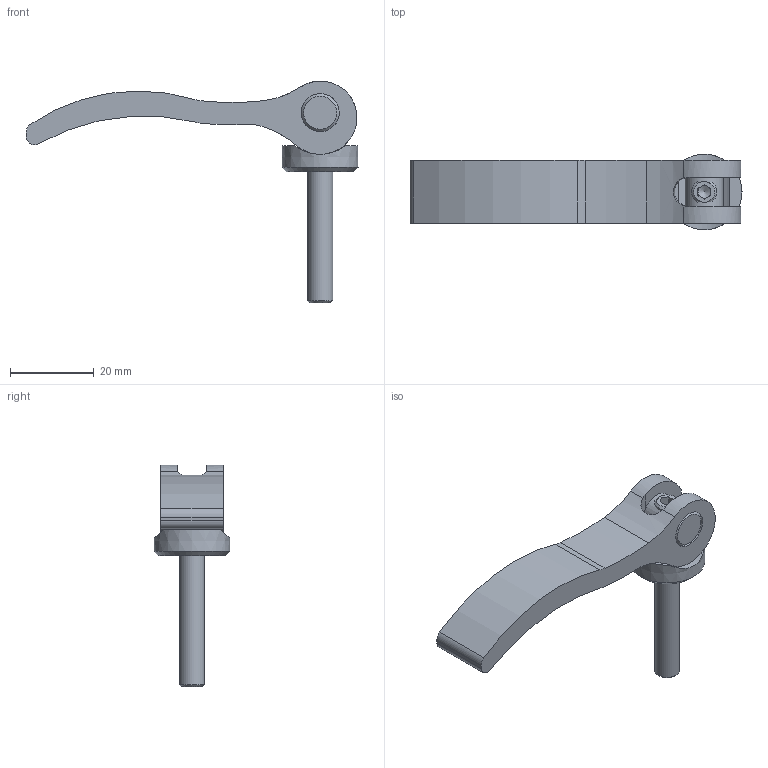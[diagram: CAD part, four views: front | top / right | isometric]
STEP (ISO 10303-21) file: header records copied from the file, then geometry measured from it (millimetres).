
FILE_DESCRIPTION(('STEP AP203'), '1');
FILE_NAME('À00360.11790620 _ Ýêñöåíòðèê 79 ìì', '', ('UNSPECIFIED'), ('UNSPECIFIED'), 'C3D Converter', 'C3D Toolkit', '');
FILE_SCHEMA(('CONFIG_CONTROL_DESIGN'));
Length unit declared in the file: millimetre
Products named in the file (5): А00360.79.03; А00360.79.02; А00360.79.01
Assembly tree (4 placements, depth 2):
  (unnamed)
    А00360.79.03
    А00360.79.02
    А00360.79.01
    (unnamed)
Bounding box: 79.33 x 18.07 x 53 mm (x, y, z)
Volume: 10362.9 mm3; surface area: 6550.1 mm2
Topology: 4 solids, 4 shells, 52 faces, 128 edges, 82 vertices
Faces by surface type: plane 24, cylinder 21, cone 7
Full cylindrical faces by diameter (mm): 4.917 x1, 6 x1, 6.6 x1, 9.1 x3
Entity records: 2382 total; most frequent: CARTESIAN_POINT 913, DIRECTION 269, ORIENTED_EDGE 228, EDGE_CURVE 114, AXIS2_PLACEMENT_3D 111, VERTEX_POINT 81, EDGE_LOOP 71, FACE_BOUND 54
